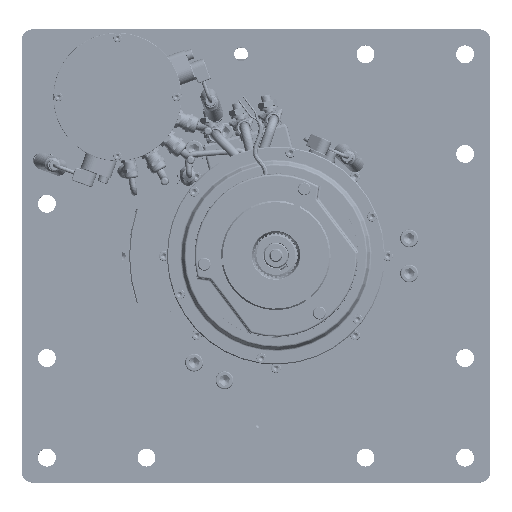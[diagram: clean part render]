
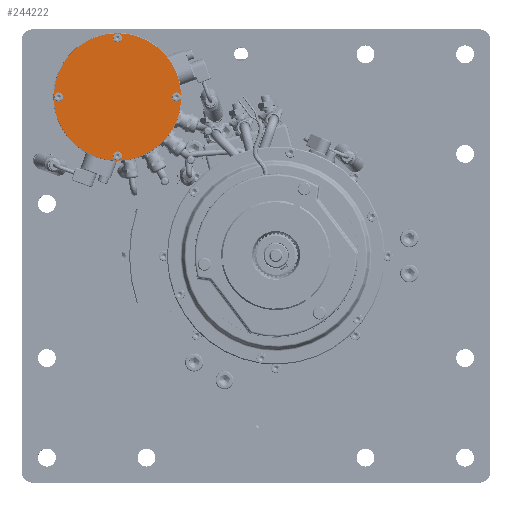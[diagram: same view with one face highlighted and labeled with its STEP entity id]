
A CAD part, top view. The second image highlights one B-rep face of the part: STEP entity #244222.
In plain terms, the highlighted planar face has unit normal (0, 0, 1).
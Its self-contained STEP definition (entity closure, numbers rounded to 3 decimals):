
#49556=FACE_BOUND('',#67809,.T.);
#49557=FACE_BOUND('',#67810,.T.);
#49558=FACE_BOUND('',#67811,.T.);
#49559=FACE_BOUND('',#67812,.T.);
#54081=FACE_OUTER_BOUND('',#67808,.T.);
#67808=EDGE_LOOP('',(#164723));
#67809=EDGE_LOOP('',(#164724));
#67810=EDGE_LOOP('',(#164725));
#67811=EDGE_LOOP('',(#164726));
#67812=EDGE_LOOP('',(#164727));
#81905=CIRCLE('',#260097,4.5);
#81907=CIRCLE('',#260101,4.5);
#81909=CIRCLE('',#260105,4.5);
#81912=CIRCLE('',#260110,4.5);
#81920=CIRCLE('',#260125,64.);
#95835=VERTEX_POINT('',#369343);
#95837=VERTEX_POINT('',#369350);
#95839=VERTEX_POINT('',#369357);
#95842=VERTEX_POINT('',#369366);
#95848=VERTEX_POINT('',#369390);
#121587=EDGE_CURVE('',#95835,#95835,#81905,.T.);
#121590=EDGE_CURVE('',#95837,#95837,#81907,.T.);
#121593=EDGE_CURVE('',#95839,#95839,#81909,.T.);
#121597=EDGE_CURVE('',#95842,#95842,#81912,.T.);
#121608=EDGE_CURVE('',#95848,#95848,#81920,.T.);
#164723=ORIENTED_EDGE('',*,*,#121608,.F.);
#164724=ORIENTED_EDGE('',*,*,#121587,.T.);
#164725=ORIENTED_EDGE('',*,*,#121590,.T.);
#164726=ORIENTED_EDGE('',*,*,#121593,.T.);
#164727=ORIENTED_EDGE('',*,*,#121597,.T.);
#220206=PLANE('',#260127);
#244222=ADVANCED_FACE('',(#54081,#49556,#49557,#49558,#49559),#220206,.T.);
#260097=AXIS2_PLACEMENT_3D('',#369344,#294551,#294552);
#260101=AXIS2_PLACEMENT_3D('',#369351,#294560,#294561);
#260105=AXIS2_PLACEMENT_3D('',#369358,#294569,#294570);
#260110=AXIS2_PLACEMENT_3D('',#369367,#294580,#294581);
#260125=AXIS2_PLACEMENT_3D('',#369391,#294613,#294614);
#260127=AXIS2_PLACEMENT_3D('',#369393,#294617,#294618);
#294551=DIRECTION('center_axis',(0.,0.,
-1.));
#294552=DIRECTION('ref_axis',(1.,0.,0.));
#294560=DIRECTION('center_axis',(0.,0.,
-1.));
#294561=DIRECTION('ref_axis',(0.,-1.,0.));
#294569=DIRECTION('center_axis',(0.,0.,
-1.));
#294570=DIRECTION('ref_axis',(0.,1.,0.));
#294580=DIRECTION('center_axis',(0.,0.,
-1.));
#294581=DIRECTION('ref_axis',(-1.,0.,0.));
#294613=DIRECTION('center_axis',(0.,0.,
-1.));
#294614=DIRECTION('ref_axis',(0.,-1.,0.));
#294617=DIRECTION('center_axis',(0.,0.,
1.));
#294618=DIRECTION('ref_axis',(0.,1.,0.));
#369343=CARTESIAN_POINT('',(-163.599,218.349,443.5));
#369344=CARTESIAN_POINT('Origin',(-159.099,218.349,443.5));
#369350=CARTESIAN_POINT('',(-99.849,163.599,443.5));
#369351=CARTESIAN_POINT('Origin',(-99.849,159.099,443.5));
#369357=CARTESIAN_POINT('',(-218.349,154.599,443.5));
#369358=CARTESIAN_POINT('Origin',(-218.349,159.099,443.5));
#369366=CARTESIAN_POINT('',(-154.599,99.849,443.5));
#369367=CARTESIAN_POINT('Origin',(-159.099,99.849,443.5));
#369390=CARTESIAN_POINT('',(-159.099,95.099,443.5));
#369391=CARTESIAN_POINT('Origin',(-159.099,159.099,443.5));
#369393=CARTESIAN_POINT('Origin',(-159.099,191.349,443.5));
